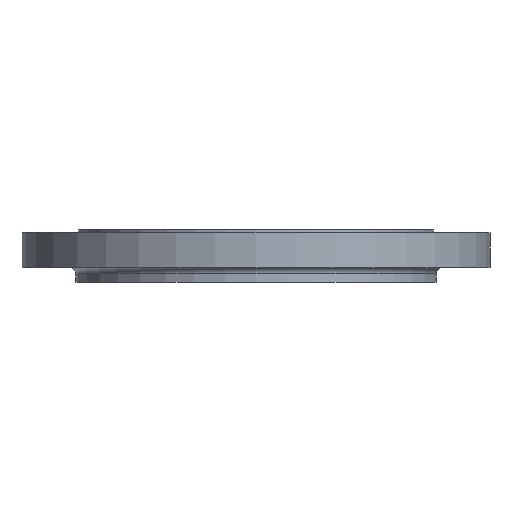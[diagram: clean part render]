
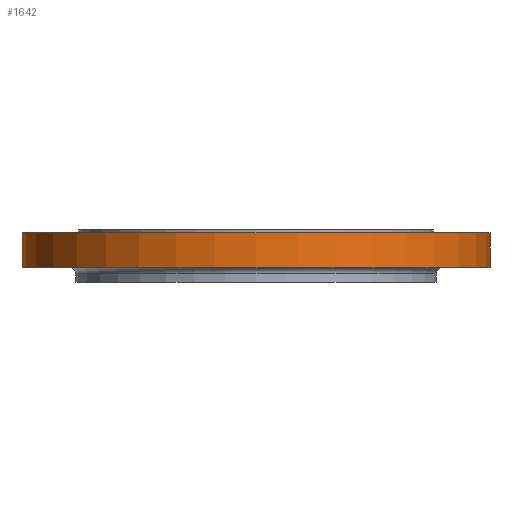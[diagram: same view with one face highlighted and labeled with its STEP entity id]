
A CAD part, front view. The second image highlights one B-rep face of the part: STEP entity #1642.
In plain terms, the highlighted cylindrical face has radius 445 mm (diameter 890 mm), a partial arc.
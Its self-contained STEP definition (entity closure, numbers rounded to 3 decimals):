
#9 = EDGE_CURVE ( 'NONE', #1521, #1475, #937, .T. ) ;
#109 = AXIS2_PLACEMENT_3D ( 'NONE', #351, #350, #349 ) ;
#116 = DIRECTION ( 'NONE',  ( 1., 0., 0. ) ) ;
#117 = DIRECTION ( 'NONE',  ( 0., 0., 1. ) ) ;
#118 = CARTESIAN_POINT ( 'NONE',  ( 0., 0., -72. ) ) ;
#142 = CARTESIAN_POINT ( 'NONE',  ( 445., 0., -72. ) ) ;
#175 = CARTESIAN_POINT ( 'NONE',  ( -445., 0., -72. ) ) ;
#183 = CARTESIAN_POINT ( 'NONE',  ( 445., 0., -5.5 ) ) ;
#314 = CARTESIAN_POINT ( 'NONE',  ( -445., 0., -5.5 ) ) ;
#349 = DIRECTION ( 'NONE',  ( -1., 0., 0. ) ) ;
#350 = DIRECTION ( 'NONE',  ( 0., 0., -1. ) ) ;
#351 = CARTESIAN_POINT ( 'NONE',  ( 0., 0., -5.5 ) ) ;
#375 = EDGE_CURVE ( 'NONE', #1483, #1284, #771, .T. ) ;
#768 = DIRECTION ( 'NONE',  ( 0., 0., 1. ) ) ;
#770 = CARTESIAN_POINT ( 'NONE',  ( -445., 0., -150. ) ) ;
#771 = LINE ( 'NONE', #770, #1344 ) ;
#935 = DIRECTION ( 'NONE',  ( 0., 0., 1. ) ) ;
#936 = CARTESIAN_POINT ( 'NONE',  ( 445., 0., -150. ) ) ;
#937 = LINE ( 'NONE', #936, #1604 ) ;
#1123 = DIRECTION ( 'NONE',  ( 1., 0., 0. ) ) ;
#1129 = DIRECTION ( 'NONE',  ( 0., 0., 1. ) ) ;
#1140 = CARTESIAN_POINT ( 'NONE',  ( 0., 0., -150. ) ) ;
#1147 = CYLINDRICAL_SURFACE ( 'NONE', #1877, 445. ) ;
#1193 = ORIENTED_EDGE ( 'NONE', *, *, #1220, .T. ) ;
#1194 = ORIENTED_EDGE ( 'NONE', *, *, #9, .T. ) ;
#1195 = ORIENTED_EDGE ( 'NONE', *, *, #1556, .T. ) ;
#1197 = ORIENTED_EDGE ( 'NONE', *, *, #375, .F. ) ;
#1220 = EDGE_CURVE ( 'NONE', #1475, #1284, #1677, .T. ) ;
#1251 = FACE_OUTER_BOUND ( 'NONE', #1802, .T. ) ;
#1284 = VERTEX_POINT ( 'NONE', #314 ) ;
#1344 = VECTOR ( 'NONE', #768, 1000. ) ;
#1475 = VERTEX_POINT ( 'NONE', #183 ) ;
#1483 = VERTEX_POINT ( 'NONE', #175 ) ;
#1521 = VERTEX_POINT ( 'NONE', #142 ) ;
#1556 = EDGE_CURVE ( 'NONE', #1483, #1521, #1821, .T. ) ;
#1604 = VECTOR ( 'NONE', #935, 1000. ) ;
#1642 = ADVANCED_FACE ( 'NONE', ( #1251 ), #1147, .T. ) ;
#1677 = CIRCLE ( 'NONE', #109, 445. ) ;
#1802 = EDGE_LOOP ( 'NONE', ( #1197, #1195, #1194, #1193 ) ) ;
#1821 = CIRCLE ( 'NONE', #1824, 445. ) ;
#1824 = AXIS2_PLACEMENT_3D ( 'NONE', #118, #117, #116 ) ;
#1877 = AXIS2_PLACEMENT_3D ( 'NONE', #1140, #1129, #1123 ) ;
